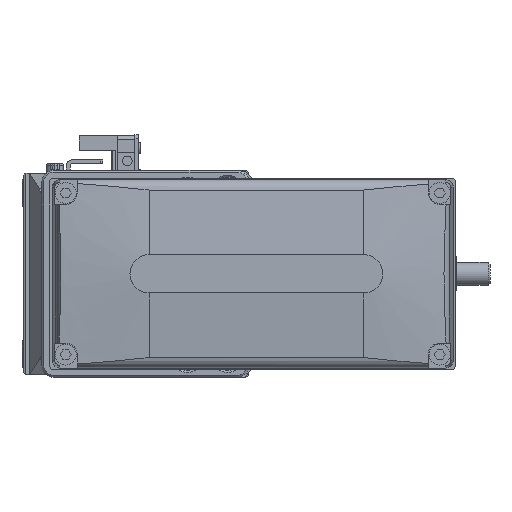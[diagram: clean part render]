
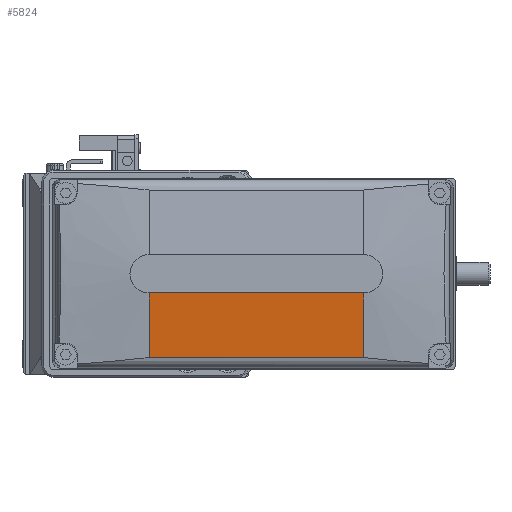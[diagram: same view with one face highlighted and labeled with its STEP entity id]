
A CAD part, left-side view. The second image highlights one B-rep face of the part: STEP entity #5824.
In plain terms, the highlighted planar face has unit normal (-0.996, 0, -0.087).
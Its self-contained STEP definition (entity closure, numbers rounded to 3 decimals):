
#2344 = FACE_OUTER_BOUND ( 'NONE', #14110, .T. ) ;
#3126 = EDGE_CURVE ( 'NONE', #15991, #33210, #33798, .T. ) ;
#3540 = CARTESIAN_POINT ( 'NONE',  ( -50., -28., -5. ) ) ;
#4348 = VERTEX_POINT ( 'NONE', #20229 ) ;
#4473 = DIRECTION ( 'NONE',  ( -0.087, 0., 0.996 ) ) ;
#4566 = VECTOR ( 'NONE', #4473, 1000. ) ;
#5824 = ADVANCED_FACE ( 'NONE', ( #2344 ), #16172, .T. ) ;
#7727 = ORIENTED_EDGE ( 'NONE', *, *, #10709, .F. ) ;
#8151 = AXIS2_PLACEMENT_3D ( 'NONE', #31103, #16555, #33873 ) ;
#9299 = EDGE_CURVE ( 'NONE', #14832, #4348, #29735, .T. ) ;
#9325 = ORIENTED_EDGE ( 'NONE', *, *, #23961, .F. ) ;
#10709 = EDGE_CURVE ( 'NONE', #14832, #15991, #15160, .T. ) ;
#14110 = EDGE_LOOP ( 'NONE', ( #9325, #19510, #7727, #31348 ) ) ;
#14832 = VERTEX_POINT ( 'NONE', #3540 ) ;
#15160 = LINE ( 'NONE', #16674, #20596 ) ;
#15358 = DIRECTION ( 'NONE',  ( 0., 1., 0. ) ) ;
#15991 = VERTEX_POINT ( 'NONE', #26636 ) ;
#16172 = PLANE ( 'NONE',  #8151 ) ;
#16555 = DIRECTION ( 'NONE',  ( -0.996, 0., -0.087 ) ) ;
#16674 = CARTESIAN_POINT ( 'NONE',  ( 43606.406, -28., -499000. ) ) ;
#16822 = LINE ( 'NONE', #21692, #4566 ) ;
#18393 = VECTOR ( 'NONE', #36939, 1000. ) ;
#19376 = VECTOR ( 'NONE', #15358, 1000. ) ;
#19510 = ORIENTED_EDGE ( 'NONE', *, *, #3126, .F. ) ;
#20229 = CARTESIAN_POINT ( 'NONE',  ( -50., 28., -5. ) ) ;
#20533 = CARTESIAN_POINT ( 'NONE',  ( -48.525, 28., -21.861 ) ) ;
#20596 = VECTOR ( 'NONE', #28785, 1000. ) ;
#21692 = CARTESIAN_POINT ( 'NONE',  ( 43606.406, 28., -499000. ) ) ;
#23961 = EDGE_CURVE ( 'NONE', #33210, #4348, #16822, .T. ) ;
#26636 = CARTESIAN_POINT ( 'NONE',  ( -48.525, -28., -21.861 ) ) ;
#28783 = CARTESIAN_POINT ( 'NONE',  ( -48.525, 128., -21.861 ) ) ;
#28785 = DIRECTION ( 'NONE',  ( 0.087, 0., -0.996 ) ) ;
#29735 = LINE ( 'NONE', #32685, #19376 ) ;
#31103 = CARTESIAN_POINT ( 'NONE',  ( -50., 128., -5. ) ) ;
#31348 = ORIENTED_EDGE ( 'NONE', *, *, #9299, .T. ) ;
#32685 = CARTESIAN_POINT ( 'NONE',  ( -50., 128., -5. ) ) ;
#33210 = VERTEX_POINT ( 'NONE', #20533 ) ;
#33798 = LINE ( 'NONE', #28783, #18393 ) ;
#33873 = DIRECTION ( 'NONE',  ( -0.087, 0., 0.996 ) ) ;
#36939 = DIRECTION ( 'NONE',  ( 0., 1., 0. ) ) ;
